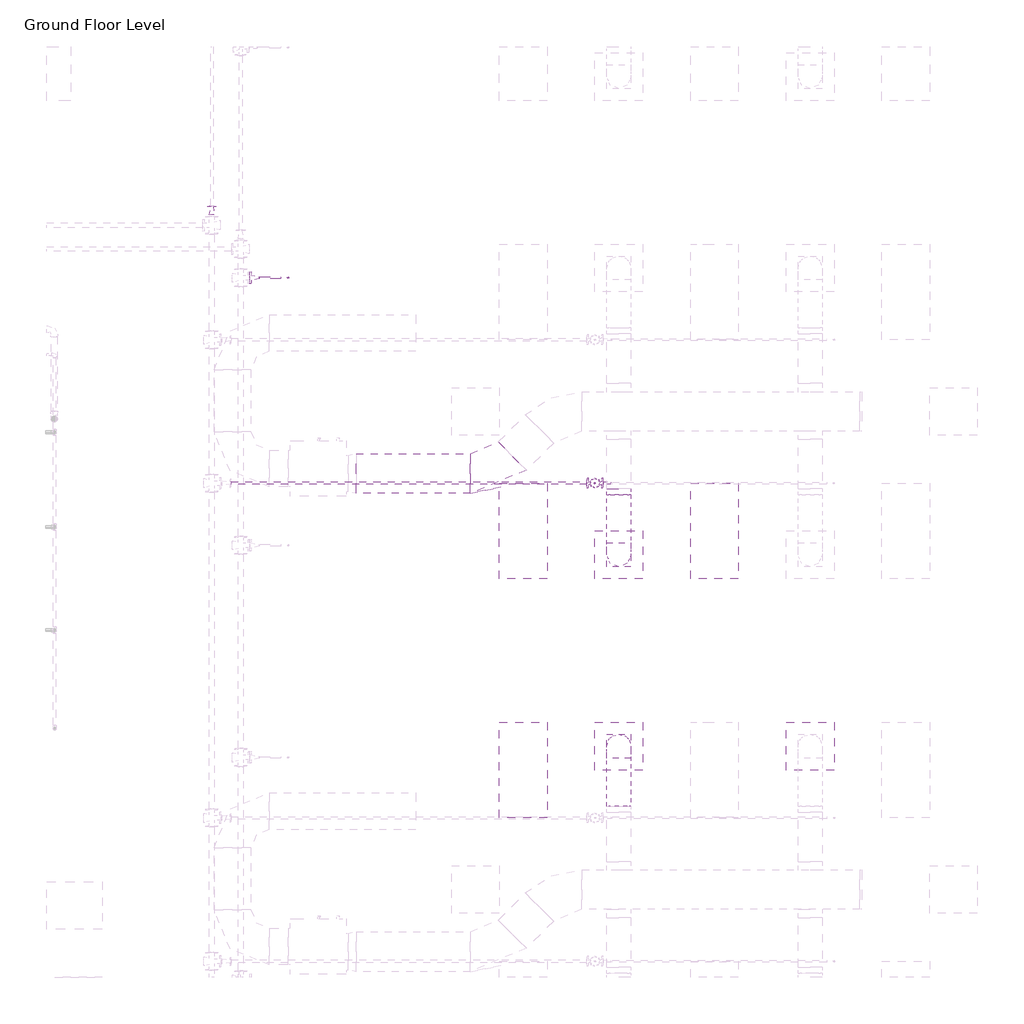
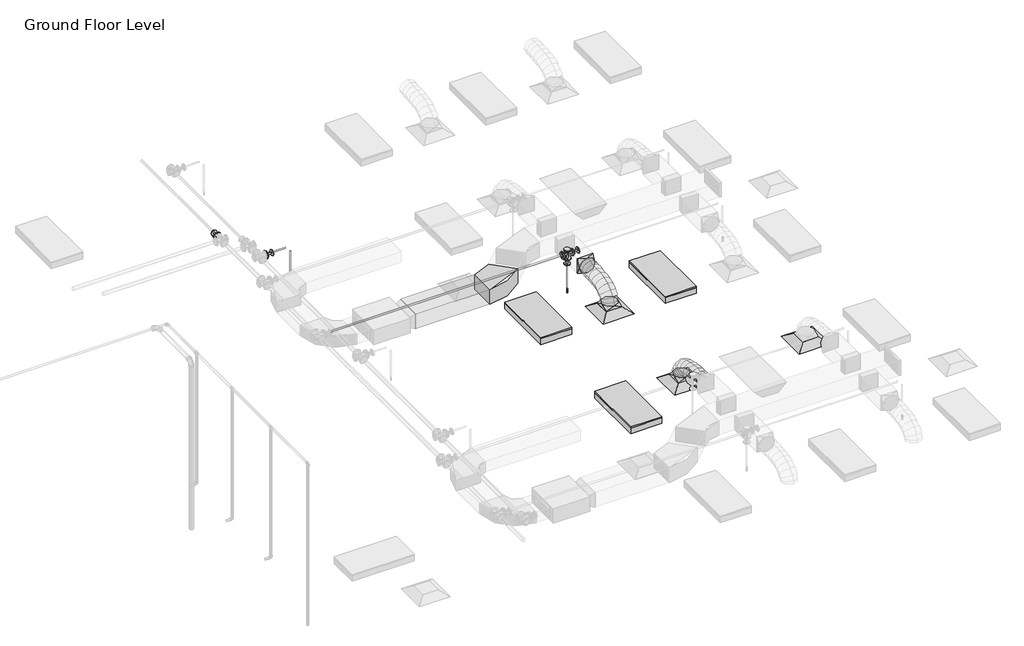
# One storey, part 61 of 66: 5 pipe fittings, 4 duct fittings, 4 pipe segments, 3 air terminals, 3 duct segments, 3 light fixtures, 2 fire suppression terminals.
"""IFC4 building model written with IfcOpenShell, lengths in millimetres."""

from ifc_helpers import new_model, si_unit, point, frame, frame_2d, origin, place, context, project, spatial, polyline, circle_curve, ellipse_curve, trimmed, segment, composite_curve, outline, extrude, transform, mapped, element, save
from ifc_brep_helpers import plane_surface, cylinder_surface, advanced_brep
from components import m_return_diffuser_600_x_600_face_300_x_300_connection_ff221211, m_rectangular_elbow_radius_1_5_w_acc56c25, m_rectangular_to_round_transition_angle_45_degree_641efff0, m_sprinkler_dry_pendent_hosted_15_mm_dry_pendent_9bda8e11, m_sprinkler_pendent_15_mm_pendent_06fcbd8e, m_troffer_light_parabolic_rectangular1_0600x1200mm_4_lamp_86473d4a, m_reducer_flanged_cs_class_150_standard_ccf252ad, m_reducer_flanged_cs_class_150_standard_9dfe9ec5, m_reducer_flanged_cs_class_150_standard_a7631c35, m_tee_round_base_flanged_cs_class_150_standard_7e5987a1

model = new_model("IFC4")

# Units and contexts
model_context = context("Model", 3, world=origin())
ifc_project = project(units=[si_unit("LENGTHUNIT", "METRE", prefix="MILLI")], contexts=[model_context])

# Site, building, storey
site = spatial("IfcSite", under=ifc_project)
building = spatial("IfcBuilding", under=site)
storey = spatial("IfcBuildingStorey", under=building, Name="Ground Floor Level", Elevation=900.0)

# Air terminals
placement = place(None, origin())
m_return_diffuser_600_x_600_face_300_x_300_connection_shape = m_return_diffuser_600_x_600_face_300_x_300_connection_ff221211(model_context)
element("IfcAirTerminal", 1, ObjectType="M_Supply Diffuser : 600 x 600 Face 300 x 300 Connection", at=placement, inside=storey, context=model_context, shape_type="MappedRepresentation", body=[
    mapped(m_return_diffuser_600_x_600_face_300_x_300_connection_shape, transform((10742.7672395, 10935.2153534, 3650.0), x_axis=(1.0, 0.0, 0.0), y_axis=(0.0, 1.0, 0.0), z_axis=(0.0, 0.0, 1.0))),
])
element("IfcAirTerminal", 2, ObjectType="M_Supply Diffuser : 600 x 600 Face 300 x 300 Connection", at=placement, inside=storey, context=model_context, shape_type="MappedRepresentation", body=[
    mapped(m_return_diffuser_600_x_600_face_300_x_300_connection_shape, transform((10742.7672395, 8535.2153534, 3650.0), x_axis=(1.0, 0.0, 0.0), y_axis=(0.0, 1.0, 0.0), z_axis=(0.0, 0.0, 1.0))),
])
element("IfcAirTerminal", 3, ObjectType="M_Supply Diffuser : 600 x 600 Face 300 x 300 Connection", at=placement, inside=storey, context=model_context, shape_type="MappedRepresentation", body=[
    mapped(m_return_diffuser_600_x_600_face_300_x_300_connection_shape, transform((13142.7672395, 8535.2153534, 3650.0), x_axis=(1.0, 0.0, 0.0), y_axis=(0.0, 1.0, 0.0), z_axis=(0.0, 0.0, 1.0))),
])

# Duct fittings
m_rectangular_elbow_radius_1_5_w_shape = m_rectangular_elbow_radius_1_5_w_acc56c25(model_context)
element("IfcDuctFitting", 4, ObjectType="M_Rectangular Elbow - Radius : 1.5 W", at=placement, inside=storey, context=model_context, shape_type="MappedRepresentation", body=[
    mapped(m_rectangular_elbow_radius_1_5_w_shape, transform((9187.6927358, 11956.1779527, 4100.0047224), x_axis=(0.9999999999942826, 0.0, -3.3815582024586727e-06), y_axis=(-9.063610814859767e-12, 0.9999999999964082, -2.680306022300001e-06), z_axis=(3.3815582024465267e-06, 2.6803060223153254e-06, 0.9999999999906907))),
])
m_rectangular_to_round_transition_angle_45_degree_shape = m_rectangular_to_round_transition_angle_45_degree_641efff0(model_context)
element("IfcDuctFitting", 5, ObjectType="M_Rectangular to Round Transition - Angle : 45 Degree", at=placement, inside=storey, context=model_context, shape_type="MappedRepresentation", body=[
    mapped(m_rectangular_to_round_transition_angle_45_degree_shape, transform((10742.7672395, 8535.2153534, 3751.6), x_axis=(0.0, 0.0, 1.0), y_axis=(-1.0, 0.0, 0.0), z_axis=(0.0, -1.0, 0.0))),
])
element("IfcDuctFitting", 6, ObjectType="M_Rectangular to Round Transition - Angle : 45 Degree", at=placement, inside=storey, context=model_context, shape_type="MappedRepresentation", body=[
    mapped(m_rectangular_to_round_transition_angle_45_degree_shape, transform((10742.7672395, 10935.2153534, 3751.6), x_axis=(0.0, 0.0, 1.0), y_axis=(-1.0, 0.0, 0.0), z_axis=(0.0, -1.0, 0.0))),
])
element("IfcDuctFitting", 7, ObjectType="M_Rectangular to Round Transition - Angle : 45 Degree", at=placement, inside=storey, context=model_context, shape_type="MappedRepresentation", body=[
    mapped(m_rectangular_to_round_transition_angle_45_degree_shape, transform((10742.7672395, 11762.5512847, 4100.0), x_axis=(0.0, -1.0, 0.0), y_axis=(1.0, 0.0, 0.0), z_axis=(0.0, 0.0, 1.0))),
])

# Duct segments
element("IfcDuctSegment", 8, ObjectType="Flex - Round", at=placement, inside=storey, context=model_context, shape_type="AdvancedBrep", body=[
    advanced_brep(
    [(10892.7672395, 8535.2153534, 3826.6), (10742.7672395, 8385.2153534, 3826.6), (10592.7672395, 8535.2153534, 3826.6), (10742.7672395, 8685.2153534, 3826.6), (10892.7672395, 8535.2153534, 3857.9377114), (10742.7672395, 8385.2153534, 3832.2944892), (10592.7672395, 8535.2153534, 3857.9377114), (10742.7672395, 8685.2153534, 3883.5809337), (10892.7672395, 8518.1994208, 3906.2505728), (10742.7672395, 8384.4614419, 3834.435049), (10592.7672395, 8518.1994208, 3906.2505728), (10742.7672395, 8651.9373998, 3978.0660967), (10892.7672395, 8471.0155405, 3968.7113131), (10742.7672395, 8366.8096412, 3857.8020236), (10592.7672395, 8471.0155405, 3968.7113131), (10742.7672395, 8575.2214397, 4079.6206026), (10892.7672395, 8399.4595883, 4016.0700639), (10742.7672395, 8330.5255327, 3881.8163788), (10592.7672395, 8399.4595883, 4016.0700639), (10742.7672395, 8468.3936439, 4150.3237489), (10892.7672395, 8309.3274403, 4050.4146682), (10742.7672395, 8265.7666771, 3906.4925606), (10592.7672395, 8309.3274403, 4050.4146682), (10742.7672395, 8352.8882035, 4194.3367758), (10892.7672395, 8206.4149725, 4073.8329691), (10742.7672395, 8179.8540485, 3926.0424542), (10592.7672395, 8206.4149725, 4073.8329691), (10742.7672395, 8232.9758965, 4221.6234841), (10892.7672395, 8096.5180607, 4088.4128097), (10742.7672395, 8081.3671584, 3939.1085462), (10592.7672395, 8096.5180607, 4088.4128097), (10742.7672395, 8111.6689631, 4237.7170733), (10892.7672395, 7985.4325811, 4096.242033), (10742.7672395, 7977.9272529, 3946.398915), (10592.7672395, 7985.4325811, 4096.242033), (10742.7672395, 7992.9379093, 4246.085151), (10892.7672395, 7878.9544096, 4099.4084821), (10742.7672395, 7876.2629165, 3949.4222102), (10592.7672395, 7878.9544096, 4099.4084821), (10742.7672395, 7881.6459027, 4249.394754), (10892.7672395, 7782.8794221, 4100.0), (10742.7672395, 7783.8029299, 4249.9971571), (10592.7672395, 7782.8794221, 4100.0), (10742.7672395, 7781.9559143, 3950.0028429)],
    [
        (0, 1, circle_curve(frame((10742.7672395, 8535.2153534, 3826.6), z_axis=(0.0, 0.0, -1.0), x_axis=(1.0, 0.0, 0.0)), 150.0)),
        (1, 2, circle_curve(frame((10742.7672395, 8535.2153534, 3826.6), z_axis=(0.0, 0.0, -1.0), x_axis=(1.0, 0.0, 0.0)), 150.0)),
        (2, 3, circle_curve(frame((10742.7672395, 8535.2153534, 3826.6), z_axis=(0.0, 0.0, -1.0), x_axis=(1.0, 0.0, 0.0)), 150.0)),
        (3, 0, circle_curve(frame((10742.7672395, 8535.2153534, 3826.6), z_axis=(0.0, 0.0, -1.0), x_axis=(1.0, 0.0, 0.0)), 150.0)),
        (0, 4),
        (4, 5, ellipse_curve(frame((10742.7672395, 8535.2153534, 3857.9377114), z_axis=(0.0, 0.16851014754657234, -0.9856999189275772), x_axis=(0.0, -0.9856999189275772, -0.1685101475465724)), 152.176131, 150.0)),
        (5, 1),
        (5, 6, ellipse_curve(frame((10742.7672395, 8535.2153534, 3857.9377114), z_axis=(0.0, 0.16851014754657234, -0.9856999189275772), x_axis=(0.0, -0.9856999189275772, -0.1685101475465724)), 152.176131, 150.0)),
        (6, 2),
        (6, 7, ellipse_curve(frame((10742.7672395, 8535.2153534, 3857.9377114), z_axis=(0.0, 0.16851014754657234, -0.9856999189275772), x_axis=(0.0, -0.9856999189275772, -0.1685101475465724)), 152.176131, 150.0)),
        (7, 3),
        (7, 4, ellipse_curve(frame((10742.7672395, 8535.2153534, 3857.9377114), z_axis=(0.0, 0.16851014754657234, -0.9856999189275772), x_axis=(0.0, -0.9856999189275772, -0.1685101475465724)), 152.176131, 150.0)),
        (4, 8),
        (8, 9, ellipse_curve(frame((10742.7672395, 8518.1994208, 3906.2505728), z_axis=(0.0, 0.4730922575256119, -0.8810128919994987), x_axis=(0.0, -0.8810128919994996, -0.47309225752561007)), 151.8002519, 150.0)),
        (9, 5),
        (9, 10, ellipse_curve(frame((10742.7672395, 8518.1994208, 3906.2505728), z_axis=(0.0, 0.4730922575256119, -0.8810128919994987), x_axis=(0.0, -0.8810128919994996, -0.47309225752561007)), 151.8002519, 150.0)),
        (10, 6),
        (10, 11, ellipse_curve(frame((10742.7672395, 8518.1994208, 3906.2505728), z_axis=(0.0, 0.4730922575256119, -0.8810128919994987), x_axis=(0.0, -0.8810128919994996, -0.47309225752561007)), 151.8002519, 150.0)),
        (11, 7),
        (11, 8, ellipse_curve(frame((10742.7672395, 8518.1994208, 3906.2505728), z_axis=(0.0, 0.4730922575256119, -0.8810128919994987), x_axis=(0.0, -0.8810128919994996, -0.47309225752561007)), 151.8002519, 150.0)),
        (8, 12),
        (12, 13, ellipse_curve(frame((10742.7672395, 8471.0155405, 3968.7113131), z_axis=(0.0, 0.7287877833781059, -0.6847396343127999), x_axis=(0.0, -0.6847396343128, -0.7287877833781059)), 152.1832446, 150.0)),
        (13, 9),
        (13, 14, ellipse_curve(frame((10742.7672395, 8471.0155405, 3968.7113131), z_axis=(0.0, 0.7287877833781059, -0.6847396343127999), x_axis=(0.0, -0.6847396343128, -0.7287877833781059)), 152.1832446, 150.0)),
        (14, 10),
        (14, 15, ellipse_curve(frame((10742.7672395, 8471.0155405, 3968.7113131), z_axis=(0.0, 0.7287877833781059, -0.6847396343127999), x_axis=(0.0, -0.6847396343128, -0.7287877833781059)), 152.1832446, 150.0)),
        (15, 11),
        (15, 12, ellipse_curve(frame((10742.7672395, 8471.0155405, 3968.7113131), z_axis=(0.0, 0.7287877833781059, -0.6847396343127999), x_axis=(0.0, -0.6847396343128, -0.7287877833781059)), 152.1832446, 150.0)),
        (12, 16),
        (16, 17, ellipse_curve(frame((10742.7672395, 8399.4595883, 4016.0700639), z_axis=(0.0, 0.8895859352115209, -0.4567678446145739), x_axis=(0.0, -0.4567678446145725, -0.8895859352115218)), 150.91705, 150.0)),
        (17, 13),
        (17, 18, ellipse_curve(frame((10742.7672395, 8399.4595883, 4016.0700639), z_axis=(0.0, 0.8895859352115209, -0.4567678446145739), x_axis=(0.0, -0.4567678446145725, -0.8895859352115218)), 150.91705, 150.0)),
        (18, 14),
        (18, 19, ellipse_curve(frame((10742.7672395, 8399.4595883, 4016.0700639), z_axis=(0.0, 0.8895859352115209, -0.4567678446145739), x_axis=(0.0, -0.4567678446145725, -0.8895859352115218)), 150.91705, 150.0)),
        (19, 15),
        (19, 16, ellipse_curve(frame((10742.7672395, 8399.4595883, 4016.0700639), z_axis=(0.0, 0.8895859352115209, -0.4567678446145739), x_axis=(0.0, -0.4567678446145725, -0.8895859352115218)), 150.91705, 150.0)),
        (16, 20),
        (20, 21, ellipse_curve(frame((10742.7672395, 8309.3274403, 4050.4146682), z_axis=(0.0, 0.9571203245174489, -0.2896906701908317), x_axis=(0.0, -0.2896906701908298, -0.9571203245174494)), 150.369921, 150.0)),
        (21, 17),
        (21, 22, ellipse_curve(frame((10742.7672395, 8309.3274403, 4050.4146682), z_axis=(0.0, 0.9571203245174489, -0.2896906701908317), x_axis=(0.0, -0.2896906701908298, -0.9571203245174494)), 150.369921, 150.0)),
        (22, 18),
        (22, 23, ellipse_curve(frame((10742.7672395, 8309.3274403, 4050.4146682), z_axis=(0.0, 0.9571203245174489, -0.2896906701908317), x_axis=(0.0, -0.2896906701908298, -0.9571203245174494)), 150.369921, 150.0)),
        (23, 19),
        (23, 20, ellipse_curve(frame((10742.7672395, 8309.3274403, 4050.4146682), z_axis=(0.0, 0.9571203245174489, -0.2896906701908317), x_axis=(0.0, -0.2896906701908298, -0.9571203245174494)), 150.369921, 150.0)),
        (20, 24),
        (24, 25, ellipse_curve(frame((10742.7672395, 8206.4149725, 4073.8329691), z_axis=(0.0, 0.9842313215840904, -0.1768861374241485), x_axis=(0.0, -0.17688613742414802, -0.9842313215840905)), 150.1583131, 150.0)),
        (25, 21),
        (25, 26, ellipse_curve(frame((10742.7672395, 8206.4149725, 4073.8329691), z_axis=(0.0, 0.9842313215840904, -0.1768861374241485), x_axis=(0.0, -0.17688613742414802, -0.9842313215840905)), 150.1583131, 150.0)),
        (26, 22),
        (26, 27, ellipse_curve(frame((10742.7672395, 8206.4149725, 4073.8329691), z_axis=(0.0, 0.9842313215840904, -0.1768861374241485), x_axis=(0.0, -0.17688613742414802, -0.9842313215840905)), 150.1583131, 150.0)),
        (27, 23),
        (27, 24, ellipse_curve(frame((10742.7672395, 8206.4149725, 4073.8329691), z_axis=(0.0, 0.9842313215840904, -0.1768861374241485), x_axis=(0.0, -0.17688613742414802, -0.9842313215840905)), 150.1583131, 150.0)),
        (24, 28),
        (28, 29, ellipse_curve(frame((10742.7672395, 8096.5180607, 4088.4128097), z_axis=(0.0, 0.9948906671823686, -0.10095821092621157), x_axis=(0.0, -0.100958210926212, -0.9948906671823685)), 150.0710264, 150.0)),
        (29, 25),
        (29, 30, ellipse_curve(frame((10742.7672395, 8096.5180607, 4088.4128097), z_axis=(0.0, 0.9948906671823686, -0.10095821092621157), x_axis=(0.0, -0.100958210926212, -0.9948906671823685)), 150.0710264, 150.0)),
        (30, 26),
        (30, 31, ellipse_curve(frame((10742.7672395, 8096.5180607, 4088.4128097), z_axis=(0.0, 0.9948906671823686, -0.10095821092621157), x_axis=(0.0, -0.100958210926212, -0.9948906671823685)), 150.0710264, 150.0)),
        (31, 27),
        (31, 28, ellipse_curve(frame((10742.7672395, 8096.5180607, 4088.4128097), z_axis=(0.0, 0.9948906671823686, -0.10095821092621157), x_axis=(0.0, -0.100958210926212, -0.9948906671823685)), 150.0710264, 150.0)),
        (28, 32),
        (32, 33, ellipse_curve(frame((10742.7672395, 7985.4325811, 4096.242033), z_axis=(0.0, 0.9987479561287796, -0.05002519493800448), x_axis=(0.0, -0.050025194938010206, -0.9987479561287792)), 150.0309634, 150.0)),
        (33, 29),
        (33, 34, ellipse_curve(frame((10742.7672395, 7985.4325811, 4096.242033), z_axis=(0.0, 0.9987479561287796, -0.05002519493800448), x_axis=(0.0, -0.050025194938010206, -0.9987479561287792)), 150.0309634, 150.0)),
        (34, 30),
        (34, 35, ellipse_curve(frame((10742.7672395, 7985.4325811, 4096.242033), z_axis=(0.0, 0.9987479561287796, -0.05002519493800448), x_axis=(0.0, -0.050025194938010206, -0.9987479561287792)), 150.0309634, 150.0)),
        (35, 31),
        (35, 32, ellipse_curve(frame((10742.7672395, 7985.4325811, 4096.242033), z_axis=(0.0, 0.9987479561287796, -0.05002519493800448), x_axis=(0.0, -0.050025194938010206, -0.9987479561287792)), 150.0309634, 150.0)),
        (32, 36),
        (36, 37, ellipse_curve(frame((10742.7672395, 7878.9544096, 4099.4084821), z_axis=(0.0, 0.9998390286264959, -0.017942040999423), x_axis=(0.0, -0.01794204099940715, -0.9998390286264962)), 150.0104193, 150.0)),
        (37, 33),
        (37, 38, ellipse_curve(frame((10742.7672395, 7878.9544096, 4099.4084821), z_axis=(0.0, 0.9998390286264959, -0.017942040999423), x_axis=(0.0, -0.01794204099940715, -0.9998390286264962)), 150.0104193, 150.0)),
        (38, 34),
        (38, 39, ellipse_curve(frame((10742.7672395, 7878.9544096, 4099.4084821), z_axis=(0.0, 0.9998390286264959, -0.017942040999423), x_axis=(0.0, -0.01794204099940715, -0.9998390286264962)), 150.0104193, 150.0)),
        (39, 35),
        (39, 36, ellipse_curve(frame((10742.7672395, 7878.9544096, 4099.4084821), z_axis=(0.0, 0.9998390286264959, -0.017942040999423), x_axis=(0.0, -0.01794204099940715, -0.9998390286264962)), 150.0104193, 150.0)),
        (40, 41, circle_curve(frame((10742.7672395, 7782.8794221, 4100.0), z_axis=(0.0, -0.9999810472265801, 0.006156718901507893), x_axis=(1.0, 0.0, 0.0)), 150.0)),
        (41, 42, circle_curve(frame((10742.7672395, 7782.8794221, 4100.0), z_axis=(0.0, -0.9999810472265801, 0.006156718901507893), x_axis=(1.0, 0.0, 0.0)), 150.0)),
        (42, 43, circle_curve(frame((10742.7672395, 7782.8794221, 4100.0), z_axis=(0.0, -0.9999810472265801, 0.006156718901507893), x_axis=(1.0, 0.0, 0.0)), 150.0)),
        (43, 40, circle_curve(frame((10742.7672395, 7782.8794221, 4100.0), z_axis=(0.0, -0.9999810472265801, 0.006156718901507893), x_axis=(1.0, 0.0, 0.0)), 150.0)),
        (36, 40),
        (43, 37),
        (42, 38),
        (41, 39),
    ],
    [
        plane_surface(frame((10742.7672395, 8385.2153534, 3826.6), z_axis=(0.0, 0.0, -1.0), x_axis=(1.0, 0.0, 0.0))),
        cylinder_surface(frame((10742.7672395, 8535.2153534, 3826.6), z_axis=(0.0, 0.0, -1.0), x_axis=(1.0, 0.0, 0.0)), 150.0),
        cylinder_surface(frame((10742.7672395, 8535.2153534, 3857.9377114), z_axis=(0.0, 0.3322008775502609, -0.9432086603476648), x_axis=(1.0, 0.0, 0.0)), 150.0),
        cylinder_surface(frame((10742.7672395, 8518.1994208, 3906.2505728), z_axis=(0.0, 0.6027625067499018, -0.7979206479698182), x_axis=(1.0, 0.0, 0.0)), 150.0),
        cylinder_surface(frame((10742.7672395, 8471.0155405, 3968.7113131), z_axis=(0.0, 0.8339024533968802, -0.5519118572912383), x_axis=(1.0, 0.0, 0.0)), 150.0),
        cylinder_surface(frame((10742.7672395, 8399.4595883, 4016.0700639), z_axis=(0.0, 0.934458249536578, -0.35607271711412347), x_axis=(1.0, 0.0, 0.0)), 150.0),
        cylinder_surface(frame((10742.7672395, 8309.3274403, 4050.4146682), z_axis=(0.0, 0.9750732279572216, -0.2218833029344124), x_axis=(1.0, 0.0, 0.0)), 150.0),
        cylinder_surface(frame((10742.7672395, 8206.4149725, 4073.8329691), z_axis=(0.0, 0.9913140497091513, -0.13151598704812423), x_axis=(1.0, 0.0, 0.0)), 150.0),
        cylinder_surface(frame((10742.7672395, 8096.5180607, 4088.4128097), z_axis=(0.0, 0.9975255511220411, -0.07030487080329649), x_axis=(1.0, 0.0, 0.0)), 150.0),
        cylinder_surface(frame((10742.7672395, 7985.4325811, 4096.242033), z_axis=(0.0, 0.9995581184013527, -0.029724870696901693), x_axis=(1.0, 0.0, 0.0)), 150.0),
        plane_surface(frame((10742.7672395, 7781.9559143, 3950.0028429), z_axis=(0.0, -0.9999810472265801, 0.0061567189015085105), x_axis=(1.0, 0.0, 0.0))),
        cylinder_surface(frame((10742.7672395, 7878.9544096, 4099.4084821), z_axis=(0.0, 0.9999810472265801, -0.006156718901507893), x_axis=(1.0, 0.0, 0.0)), 150.0),
    ],
    [
        (0, [[1, 2, 3, 4]]),
        (1, [[-1, 5, 6, 7]]),
        (1, [[-2, -7, 8, 9]]),
        (1, [[-3, -9, 10, 11]]),
        (1, [[-4, -11, 12, -5]]),
        (2, [[-6, 13, 14, 15]]),
        (2, [[-8, -15, 16, 17]]),
        (2, [[-10, -17, 18, 19]]),
        (2, [[-12, -19, 20, -13]]),
        (3, [[-14, 21, 22, 23]]),
        (3, [[-16, -23, 24, 25]]),
        (3, [[-18, -25, 26, 27]]),
        (3, [[-20, -27, 28, -21]]),
        (4, [[-22, 29, 30, 31]]),
        (4, [[-24, -31, 32, 33]]),
        (4, [[-26, -33, 34, 35]]),
        (4, [[-28, -35, 36, -29]]),
        (5, [[-30, 37, 38, 39]]),
        (5, [[-32, -39, 40, 41]]),
        (5, [[-34, -41, 42, 43]]),
        (5, [[-36, -43, 44, -37]]),
        (6, [[-38, 45, 46, 47]]),
        (6, [[-40, -47, 48, 49]]),
        (6, [[-42, -49, 50, 51]]),
        (6, [[-44, -51, 52, -45]]),
        (7, [[-46, 53, 54, 55]]),
        (7, [[-48, -55, 56, 57]]),
        (7, [[-50, -57, 58, 59]]),
        (7, [[-52, -59, 60, -53]]),
        (8, [[-54, 61, 62, 63]]),
        (8, [[-56, -63, 64, 65]]),
        (8, [[-58, -65, 66, 67]]),
        (8, [[-60, -67, 68, -61]]),
        (9, [[-62, 69, 70, 71]]),
        (9, [[-64, -71, 72, 73]]),
        (9, [[-66, -73, 74, 75]]),
        (9, [[-68, -75, 76, -69]]),
        (10, [[77, 78, 79, 80]]),
        (11, [[-70, 81, -80, 82]]),
        (11, [[-72, -82, -79, 83]]),
        (11, [[-74, -83, -78, 84]]),
        (11, [[-76, -84, -77, -81]]),
    ],
),
])
element("IfcDuctSegment", 9, ObjectType="Flex - Round", at=placement, inside=storey, context=model_context, shape_type="AdvancedBrep", body=[
    advanced_brep(
    [(10892.7672395, 10935.2153534, 3826.6), (10742.7672395, 10785.2153534, 3826.6), (10592.7672395, 10935.2153534, 3826.6), (10742.7672395, 11085.2153534, 3826.6), (10892.7672395, 10935.2153534, 3857.9377114), (10742.7672395, 10785.2153534, 3883.5809337), (10592.7672395, 10935.2153534, 3857.9377114), (10742.7672395, 11085.2153534, 3832.2944892), (10892.7672395, 10952.2312859, 3906.2505728), (10742.7672395, 10818.493307, 3978.0660967), (10592.7672395, 10952.2312859, 3906.2505728), (10742.7672395, 11085.9692649, 3834.435049), (10892.7672395, 10999.4151663, 3968.7113131), (10742.7672395, 10895.209267, 4079.6206026), (10592.7672395, 10999.4151663, 3968.7113131), (10742.7672395, 11103.6210655, 3857.8020236), (10892.7672395, 11070.9711184, 4016.0700639), (10742.7672395, 11002.0370628, 4150.3237489), (10592.7672395, 11070.9711184, 4016.0700639), (10742.7672395, 11139.9051741, 3881.8163788), (10892.7672395, 11161.1032664, 4050.4146682), (10742.7672395, 11117.5425033, 4194.3367758), (10592.7672395, 11161.1032664, 4050.4146682), (10742.7672395, 11204.6640296, 3906.4925606), (10892.7672395, 11264.0157343, 4073.8329691), (10742.7672395, 11237.4548103, 4221.6234841), (10592.7672395, 11264.0157343, 4073.8329691), (10742.7672395, 11290.5766583, 3926.0424542), (10892.7672395, 11373.912646, 4088.4128097), (10742.7672395, 11358.7617437, 4237.7170733), (10592.7672395, 11373.912646, 4088.4128097), (10742.7672395, 11389.0635483, 3939.1085462), (10892.7672395, 11484.9981256, 4096.242033), (10742.7672395, 11477.4927975, 4246.085151), (10592.7672395, 11484.9981256, 4096.242033), (10742.7672395, 11492.5034538, 3946.398915), (10892.7672395, 11591.4762972, 4099.4084821), (10742.7672395, 11588.7848041, 4249.394754), (10592.7672395, 11591.4762972, 4099.4084821), (10742.7672395, 11594.1677903, 3949.4222102), (10892.7672395, 11687.5512847, 4100.0), (10742.7672395, 11688.4747925, 3950.0028429), (10592.7672395, 11687.5512847, 4100.0), (10742.7672395, 11686.6277768, 4249.9971571)],
    [
        (0, 1, circle_curve(frame((10742.7672395, 10935.2153534, 3826.6), z_axis=(0.0, 0.0, -1.0), x_axis=(1.0, 0.0, 0.0)), 150.0)),
        (1, 2, circle_curve(frame((10742.7672395, 10935.2153534, 3826.6), z_axis=(0.0, 0.0, -1.0), x_axis=(1.0, 0.0, 0.0)), 150.0)),
        (2, 3, circle_curve(frame((10742.7672395, 10935.2153534, 3826.6), z_axis=(0.0, 0.0, -1.0), x_axis=(1.0, 0.0, 0.0)), 150.0)),
        (3, 0, circle_curve(frame((10742.7672395, 10935.2153534, 3826.6), z_axis=(0.0, 0.0, -1.0), x_axis=(1.0, 0.0, 0.0)), 150.0)),
        (0, 4),
        (4, 5, ellipse_curve(frame((10742.7672395, 10935.2153534, 3857.9377114), z_axis=(0.0, -0.16851014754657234, -0.9856999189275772), x_axis=(0.0, 0.9856999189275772, -0.1685101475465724)), 152.176131, 150.0)),
        (5, 1),
        (5, 6, ellipse_curve(frame((10742.7672395, 10935.2153534, 3857.9377114), z_axis=(0.0, -0.16851014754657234, -0.9856999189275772), x_axis=(0.0, 0.9856999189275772, -0.1685101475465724)), 152.176131, 150.0)),
        (6, 2),
        (6, 7, ellipse_curve(frame((10742.7672395, 10935.2153534, 3857.9377114), z_axis=(0.0, -0.16851014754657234, -0.9856999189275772), x_axis=(0.0, 0.9856999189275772, -0.1685101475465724)), 152.176131, 150.0)),
        (7, 3),
        (7, 4, ellipse_curve(frame((10742.7672395, 10935.2153534, 3857.9377114), z_axis=(0.0, -0.16851014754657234, -0.9856999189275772), x_axis=(0.0, 0.9856999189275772, -0.1685101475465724)), 152.176131, 150.0)),
        (4, 8),
        (8, 9, ellipse_curve(frame((10742.7672395, 10952.2312859, 3906.2505728), z_axis=(0.0, -0.47309225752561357, -0.8810128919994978), x_axis=(0.0, 0.8810128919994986, -0.47309225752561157)), 151.8002519, 150.0)),
        (9, 5),
        (9, 10, ellipse_curve(frame((10742.7672395, 10952.2312859, 3906.2505728), z_axis=(0.0, -0.47309225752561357, -0.8810128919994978), x_axis=(0.0, 0.8810128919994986, -0.47309225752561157)), 151.8002519, 150.0)),
        (10, 6),
        (10, 11, ellipse_curve(frame((10742.7672395, 10952.2312859, 3906.2505728), z_axis=(0.0, -0.47309225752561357, -0.8810128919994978), x_axis=(0.0, 0.8810128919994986, -0.47309225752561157)), 151.8002519, 150.0)),
        (11, 7),
        (11, 8, ellipse_curve(frame((10742.7672395, 10952.2312859, 3906.2505728), z_axis=(0.0, -0.47309225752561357, -0.8810128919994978), x_axis=(0.0, 0.8810128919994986, -0.47309225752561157)), 151.8002519, 150.0)),
        (8, 12),
        (12, 13, ellipse_curve(frame((10742.7672395, 10999.4151663, 3968.7113131), z_axis=(0.0, -0.7287877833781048, -0.6847396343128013), x_axis=(0.0, 0.6847396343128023, -0.7287877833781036)), 152.1832446, 150.0)),
        (13, 9),
        (13, 14, ellipse_curve(frame((10742.7672395, 10999.4151663, 3968.7113131), z_axis=(0.0, -0.7287877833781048, -0.6847396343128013), x_axis=(0.0, 0.6847396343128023, -0.7287877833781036)), 152.1832446, 150.0)),
        (14, 10),
        (14, 15, ellipse_curve(frame((10742.7672395, 10999.4151663, 3968.7113131), z_axis=(0.0, -0.7287877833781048, -0.6847396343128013), x_axis=(0.0, 0.6847396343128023, -0.7287877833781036)), 152.1832446, 150.0)),
        (15, 11),
        (15, 12, ellipse_curve(frame((10742.7672395, 10999.4151663, 3968.7113131), z_axis=(0.0, -0.7287877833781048, -0.6847396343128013), x_axis=(0.0, 0.6847396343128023, -0.7287877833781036)), 152.1832446, 150.0)),
        (12, 16),
        (16, 17, ellipse_curve(frame((10742.7672395, 11070.9711184, 4016.0700639), z_axis=(0.0, -0.8895859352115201, -0.45676784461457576), x_axis=(0.0, 0.45676784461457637, -0.8895859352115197)), 150.91705, 150.0)),
        (17, 13),
        (17, 18, ellipse_curve(frame((10742.7672395, 11070.9711184, 4016.0700639), z_axis=(0.0, -0.8895859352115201, -0.45676784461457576), x_axis=(0.0, 0.45676784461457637, -0.8895859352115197)), 150.91705, 150.0)),
        (18, 14),
        (18, 19, ellipse_curve(frame((10742.7672395, 11070.9711184, 4016.0700639), z_axis=(0.0, -0.8895859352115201, -0.45676784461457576), x_axis=(0.0, 0.45676784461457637, -0.8895859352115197)), 150.91705, 150.0)),
        (19, 15),
        (19, 16, ellipse_curve(frame((10742.7672395, 11070.9711184, 4016.0700639), z_axis=(0.0, -0.8895859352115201, -0.45676784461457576), x_axis=(0.0, 0.45676784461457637, -0.8895859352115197)), 150.91705, 150.0)),
        (16, 20),
        (20, 21, ellipse_curve(frame((10742.7672395, 11161.1032664, 4050.4146682), z_axis=(0.0, -0.9571203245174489, -0.2896906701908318), x_axis=(0.0, 0.28969067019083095, -0.9571203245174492)), 150.369921, 150.0)),
        (21, 17),
        (21, 22, ellipse_curve(frame((10742.7672395, 11161.1032664, 4050.4146682), z_axis=(0.0, -0.9571203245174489, -0.2896906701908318), x_axis=(0.0, 0.28969067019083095, -0.9571203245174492)), 150.369921, 150.0)),
        (22, 18),
        (22, 23, ellipse_curve(frame((10742.7672395, 11161.1032664, 4050.4146682), z_axis=(0.0, -0.9571203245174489, -0.2896906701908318), x_axis=(0.0, 0.28969067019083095, -0.9571203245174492)), 150.369921, 150.0)),
        (23, 19),
        (23, 20, ellipse_curve(frame((10742.7672395, 11161.1032664, 4050.4146682), z_axis=(0.0, -0.9571203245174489, -0.2896906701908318), x_axis=(0.0, 0.28969067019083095, -0.9571203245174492)), 150.369921, 150.0)),
        (20, 24),
        (24, 25, ellipse_curve(frame((10742.7672395, 11264.0157343, 4073.8329691), z_axis=(0.0, -0.9842313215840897, -0.17688613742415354), x_axis=(0.0, 0.1768861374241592, -0.9842313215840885)), 150.1583131, 150.0)),
        (25, 21),
        (25, 26, ellipse_curve(frame((10742.7672395, 11264.0157343, 4073.8329691), z_axis=(0.0, -0.9842313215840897, -0.17688613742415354), x_axis=(0.0, 0.1768861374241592, -0.9842313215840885)), 150.1583131, 150.0)),
        (26, 22),
        (26, 27, ellipse_curve(frame((10742.7672395, 11264.0157343, 4073.8329691), z_axis=(0.0, -0.9842313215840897, -0.17688613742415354), x_axis=(0.0, 0.1768861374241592, -0.9842313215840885)), 150.1583131, 150.0)),
        (27, 23),
        (27, 24, ellipse_curve(frame((10742.7672395, 11264.0157343, 4073.8329691), z_axis=(0.0, -0.9842313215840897, -0.17688613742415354), x_axis=(0.0, 0.1768861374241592, -0.9842313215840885)), 150.1583131, 150.0)),
        (24, 28),
        (28, 29, ellipse_curve(frame((10742.7672395, 11373.912646, 4088.4128097), z_axis=(0.0, -0.9948906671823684, -0.10095821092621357), x_axis=(0.0, 0.10095821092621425, -0.9948906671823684)), 150.0710264, 150.0)),
        (29, 25),
        (29, 30, ellipse_curve(frame((10742.7672395, 11373.912646, 4088.4128097), z_axis=(0.0, -0.9948906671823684, -0.10095821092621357), x_axis=(0.0, 0.10095821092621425, -0.9948906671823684)), 150.0710264, 150.0)),
        (30, 26),
        (30, 31, ellipse_curve(frame((10742.7672395, 11373.912646, 4088.4128097), z_axis=(0.0, -0.9948906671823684, -0.10095821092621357), x_axis=(0.0, 0.10095821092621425, -0.9948906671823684)), 150.0710264, 150.0)),
        (31, 27),
        (31, 28, ellipse_curve(frame((10742.7672395, 11373.912646, 4088.4128097), z_axis=(0.0, -0.9948906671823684, -0.10095821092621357), x_axis=(0.0, 0.10095821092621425, -0.9948906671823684)), 150.0710264, 150.0)),
        (28, 32),
        (32, 33, ellipse_curve(frame((10742.7672395, 11484.9981256, 4096.242033), z_axis=(0.0, -0.9987479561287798, -0.05002519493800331), x_axis=(0.0, 0.050025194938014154, -0.9987479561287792)), 150.0309634, 150.0)),
        (33, 29),
        (33, 34, ellipse_curve(frame((10742.7672395, 11484.9981256, 4096.242033), z_axis=(0.0, -0.9987479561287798, -0.05002519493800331), x_axis=(0.0, 0.050025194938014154, -0.9987479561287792)), 150.0309634, 150.0)),
        (34, 30),
        (34, 35, ellipse_curve(frame((10742.7672395, 11484.9981256, 4096.242033), z_axis=(0.0, -0.9987479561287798, -0.05002519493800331), x_axis=(0.0, 0.050025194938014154, -0.9987479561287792)), 150.0309634, 150.0)),
        (35, 31),
        (35, 32, ellipse_curve(frame((10742.7672395, 11484.9981256, 4096.242033), z_axis=(0.0, -0.9987479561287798, -0.05002519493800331), x_axis=(0.0, 0.050025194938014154, -0.9987479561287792)), 150.0309634, 150.0)),
        (32, 36),
        (36, 37, ellipse_curve(frame((10742.7672395, 11591.4762972, 4099.4084821), z_axis=(0.0, -0.9998390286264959, -0.01794204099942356), x_axis=(-1.8187895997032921e-12, 0.017942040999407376, -0.9998390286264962)), 150.0104193, 150.0)),
        (37, 33),
        (37, 38, ellipse_curve(frame((10742.7672395, 11591.4762972, 4099.4084821), z_axis=(0.0, -0.9998390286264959, -0.01794204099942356), x_axis=(-1.8187895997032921e-12, 0.017942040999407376, -0.9998390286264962)), 150.0104193, 150.0)),
        (38, 34),
        (38, 39, ellipse_curve(frame((10742.7672395, 11591.4762972, 4099.4084821), z_axis=(0.0, -0.9998390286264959, -0.01794204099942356), x_axis=(-1.8187895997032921e-12, 0.017942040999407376, -0.9998390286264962)), 150.0104193, 150.0)),
        (39, 35),
        (39, 36, ellipse_curve(frame((10742.7672395, 11591.4762972, 4099.4084821), z_axis=(0.0, -0.9998390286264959, -0.01794204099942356), x_axis=(-1.8187895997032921e-12, 0.017942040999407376, -0.9998390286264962)), 150.0104193, 150.0)),
        (40, 41, circle_curve(frame((10742.7672395, 11687.5512847, 4100.0), z_axis=(0.0, 0.9999810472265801, 0.006156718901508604), x_axis=(1.0, 0.0, 0.0)), 150.0)),
        (41, 42, circle_curve(frame((10742.7672395, 11687.5512847, 4100.0), z_axis=(0.0, 0.9999810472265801, 0.006156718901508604), x_axis=(1.0, 0.0, 0.0)), 150.0)),
        (42, 43, circle_curve(frame((10742.7672395, 11687.5512847, 4100.0), z_axis=(0.0, 0.9999810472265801, 0.006156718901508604), x_axis=(1.0, 0.0, 0.0)), 150.0)),
        (43, 40, circle_curve(frame((10742.7672395, 11687.5512847, 4100.0), z_axis=(0.0, 0.9999810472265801, 0.006156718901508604), x_axis=(1.0, 0.0, 0.0)), 150.0)),
        (36, 40),
        (43, 37),
        (42, 38),
        (41, 39),
    ],
    [
        plane_surface(frame((10742.7672395, 10785.2153534, 3826.6), z_axis=(0.0, 0.0, -1.0), x_axis=(1.0, 0.0, 0.0))),
        cylinder_surface(frame((10742.7672395, 10935.2153534, 3826.6), z_axis=(0.0, 0.0, -1.0), x_axis=(1.0, 0.0, 0.0)), 150.0),
        cylinder_surface(frame((10742.7672395, 10935.2153534, 3857.9377114), z_axis=(0.0, -0.3322008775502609, -0.9432086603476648), x_axis=(1.0, 0.0, 0.0)), 150.0),
        cylinder_surface(frame((10742.7672395, 10952.2312859, 3906.2505728), z_axis=(0.0, -0.6027625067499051, -0.7979206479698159), x_axis=(1.0, 0.0, 0.0)), 150.0),
        cylinder_surface(frame((10742.7672395, 10999.4151663, 3968.7113131), z_axis=(0.0, -0.833902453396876, -0.5519118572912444), x_axis=(1.0, 0.0, 0.0)), 150.0),
        cylinder_surface(frame((10742.7672395, 11070.9711184, 4016.0700639), z_axis=(0.0, -0.9344582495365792, -0.35607271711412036), x_axis=(1.0, 0.0, 0.0)), 150.0),
        cylinder_surface(frame((10742.7672395, 11161.1032664, 4050.4146682), z_axis=(0.0, -0.9750732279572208, -0.22188330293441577), x_axis=(1.0, 0.0, 0.0)), 150.0),
        cylinder_surface(frame((10742.7672395, 11264.0157343, 4073.8329691), z_axis=(0.0, -0.9913140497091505, -0.131515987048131), x_axis=(1.0, 0.0, 0.0)), 150.0),
        cylinder_surface(frame((10742.7672395, 11373.912646, 4088.4128097), z_axis=(0.0, -0.9975255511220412, -0.07030487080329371), x_axis=(1.0, 0.0, 0.0)), 150.0),
        cylinder_surface(frame((10742.7672395, 11484.9981256, 4096.242033), z_axis=(0.0, -0.9995581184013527, -0.029724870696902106), x_axis=(1.0, 0.0, 0.0)), 150.0),
        plane_surface(frame((10742.7672395, 11686.6277768, 4249.9971571), z_axis=(0.0, 0.9999810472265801, 0.0061567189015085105), x_axis=(1.0, 0.0, 0.0))),
        cylinder_surface(frame((10742.7672395, 11591.4762972, 4099.4084821), z_axis=(0.0, -0.9999810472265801, -0.006156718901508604), x_axis=(1.0, 0.0, 0.0)), 150.0),
    ],
    [
        (0, [[1, 2, 3, 4]]),
        (1, [[-1, 5, 6, 7]]),
        (1, [[-2, -7, 8, 9]]),
        (1, [[-3, -9, 10, 11]]),
        (1, [[-4, -11, 12, -5]]),
        (2, [[-6, 13, 14, 15]]),
        (2, [[-8, -15, 16, 17]]),
        (2, [[-10, -17, 18, 19]]),
        (2, [[-12, -19, 20, -13]]),
        (3, [[-14, 21, 22, 23]]),
        (3, [[-16, -23, 24, 25]]),
        (3, [[-18, -25, 26, 27]]),
        (3, [[-20, -27, 28, -21]]),
        (4, [[-22, 29, 30, 31]]),
        (4, [[-24, -31, 32, 33]]),
        (4, [[-26, -33, 34, 35]]),
        (4, [[-28, -35, 36, -29]]),
        (5, [[-30, 37, 38, 39]]),
        (5, [[-32, -39, 40, 41]]),
        (5, [[-34, -41, 42, 43]]),
        (5, [[-36, -43, 44, -37]]),
        (6, [[-38, 45, 46, 47]]),
        (6, [[-40, -47, 48, 49]]),
        (6, [[-42, -49, 50, 51]]),
        (6, [[-44, -51, 52, -45]]),
        (7, [[-46, 53, 54, 55]]),
        (7, [[-48, -55, 56, 57]]),
        (7, [[-50, -57, 58, 59]]),
        (7, [[-52, -59, 60, -53]]),
        (8, [[-54, 61, 62, 63]]),
        (8, [[-56, -63, 64, 65]]),
        (8, [[-58, -65, 66, 67]]),
        (8, [[-60, -67, 68, -61]]),
        (9, [[-62, 69, 70, 71]]),
        (9, [[-64, -71, 72, 73]]),
        (9, [[-66, -73, 74, 75]]),
        (9, [[-68, -75, 76, -69]]),
        (10, [[77, 78, 79, 80]]),
        (11, [[-70, 81, -80, 82]]),
        (11, [[-72, -82, -79, 83]]),
        (11, [[-74, -83, -78, 84]]),
        (11, [[-76, -84, -77, -81]]),
    ],
),
])
element("IfcDuctSegment", 10, ObjectType="Radius Elbows / Taps", at=placement, inside=storey, context=model_context, shape_type="SweptSolid", body=[
    extrude(outline(polyline([(7447.693178, 11706.1779527), (7447.693178, 12206.1779527), (8877.032564, 12206.1779527), (8877.032564, 11706.1779527), (7447.693178, 11706.1779527)])), frame((0.0, 0.0, 3950.0057729), z_axis=(0.0, 0.0, 1.0), x_axis=(1.0, 0.0, 0.0)), (0.0, 0.0, 1.0), 300.0),
])

# Fire suppression terminals
m_sprinkler_dry_pendent_hosted_15_mm_dry_pendent_shape = m_sprinkler_dry_pendent_hosted_15_mm_dry_pendent_9bda8e11(model_context)
element("IfcFireSuppressionTerminal", 11, ObjectType="M_Sprinkler - Dry - Pendent - Hosted : 15 mm Dry Pendent", at=placement, inside=storey, context=model_context, shape_type="MappedRepresentation", body=[
    mapped(m_sprinkler_dry_pendent_hosted_15_mm_dry_pendent_shape, transform((10442.7672395, 11835.2153534, 3650.0), x_axis=(1.0, 0.0, 0.0), y_axis=(0.0, -1.0, 0.0), z_axis=(0.0, 0.0, -1.0))),
])
m_sprinkler_pendent_15_mm_pendent_shape = m_sprinkler_pendent_15_mm_pendent_06fcbd8e(model_context)
element("IfcFireSuppressionTerminal", 12, ObjectType="M_Sprinkler - Pendent : 15 mm Pendent", at=placement, inside=storey, context=model_context, shape_type="MappedRepresentation", body=[
    mapped(m_sprinkler_pendent_15_mm_pendent_shape, transform((6592.5481019, 14412.7243649, 3650.0), x_axis=(1.0, 0.0, 0.0), y_axis=(0.0, 1.0, 0.0), z_axis=(0.0, 0.0, 1.0))),
])

# Light fixtures
m_troffer_light_parabolic_rectangular1_0600x1200mm_4_lamp_shape = m_troffer_light_parabolic_rectangular1_0600x1200mm_4_lamp_86473d4a(model_context)
element("IfcLightFixture", 13, ObjectType="M_Troffer Light - Parabolic Rectangular1 : 0600x1200mm(4 Lamp) - 277V 2", at=placement, inside=storey, context=model_context, shape_type="MappedRepresentation", body=[
    mapped(m_troffer_light_parabolic_rectangular1_0600x1200mm_4_lamp_shape, transform((9483.3013074, 11253.918855, 3650.0), x_axis=(0.0, 1.0, 0.0), y_axis=(-1.0, 0.0, 0.0), z_axis=(0.0, 0.0, 1.0))),
])
element("IfcLightFixture", 14, ObjectType="M_Troffer Light - Parabolic Rectangular1 : 0600x1200mm(4 Lamp) - 277V 2", at=placement, inside=storey, context=model_context, shape_type="MappedRepresentation", body=[
    mapped(m_troffer_light_parabolic_rectangular1_0600x1200mm_4_lamp_shape, transform((11883.3013074, 11253.918855, 3650.0), x_axis=(0.0, 1.0, 0.0), y_axis=(-1.0, 0.0, 0.0), z_axis=(0.0, 0.0, 1.0))),
])
element("IfcLightFixture", 15, ObjectType="M_Troffer Light - Parabolic Rectangular1 : 0600x1200mm(4 Lamp) - 277V 2", at=placement, inside=storey, context=model_context, shape_type="MappedRepresentation", body=[
    mapped(m_troffer_light_parabolic_rectangular1_0600x1200mm_4_lamp_shape, transform((9483.3013074, 8253.9188549, 3650.0), x_axis=(0.0, 1.0, 0.0), y_axis=(-1.0, 0.0, 0.0), z_axis=(0.0, 0.0, 1.0))),
])

# Pipe fittings
m_reducer_flanged_cs_class_150_standard_shape = m_reducer_flanged_cs_class_150_standard_ccf252ad(model_context)
element("IfcPipeFitting", 16, ObjectType="M_Reducer - Flanged - CS - Class 150 : Standard", at=placement, inside=storey, context=model_context, shape_type="MappedRepresentation", body=[
    mapped(m_reducer_flanged_cs_class_150_standard_shape, transform((10543.4758332, 11835.2153534, 4360.0), x_axis=(1.0, 0.0, 0.0), y_axis=(0.0, 0.0, 1.0), z_axis=(0.0, -1.0, 0.0))),
])
element("IfcPipeFitting", 17, ObjectType="M_Reducer - Flanged - CS - Class 150 : Standard", at=placement, inside=storey, context=model_context, shape_type="MappedRepresentation", body=[
    mapped(m_reducer_flanged_cs_class_150_standard_shape, transform((10442.7672395, 11835.2153534, 4259.2914062), x_axis=(0.0, 0.0, -1.0), y_axis=(-1.0, 0.0, 0.0), z_axis=(0.0, 1.0, 0.0))),
])
m_reducer_flanged_cs_class_150_standard_2_shape = m_reducer_flanged_cs_class_150_standard_9dfe9ec5(model_context)
element("IfcPipeFitting", 18, ObjectType="M_Reducer - Flanged - CS - Class 150 : Standard", at=placement, inside=storey, context=model_context, shape_type="MappedRepresentation", body=[
    mapped(m_reducer_flanged_cs_class_150_standard_2_shape, transform((6111.057812, 14412.7243649, 4291.2754753), x_axis=(1.0, 0.0, 0.0), y_axis=(0.0, 0.0, -1.0), z_axis=(0.0, 1.0, 0.0))),
])
m_reducer_flanged_cs_class_150_standard_3_shape = m_reducer_flanged_cs_class_150_standard_a7631c35(model_context)
element("IfcPipeFitting", 19, ObjectType="M_Reducer - Flanged - CS - Class 150 : Standard", at=placement, inside=storey, context=model_context, shape_type="MappedRepresentation", body=[
    mapped(m_reducer_flanged_cs_class_150_standard_3_shape, transform((5635.869498, 15187.2009828, 4360.0), x_axis=(0.0, 1.0, 0.0), y_axis=(-1.0, 0.0, 0.0), z_axis=(0.0, 0.0, 1.0))),
])
m_tee_round_base_flanged_cs_class_150_standard_shape = m_tee_round_base_flanged_cs_class_150_standard_7e5987a1(model_context)
element("IfcPipeFitting", 20, ObjectType="M_Tee Round Base - Flanged - CS - Class 150 : Standard", at=placement, inside=storey, context=model_context, shape_type="MappedRepresentation", body=[
    mapped(m_tee_round_base_flanged_cs_class_150_standard_shape, transform((10442.7672395, 11835.2153534, 4360.0), x_axis=(1.0, 0.0, 0.0), y_axis=(0.0, 0.0, 1.0), z_axis=(0.0, -1.0, 0.0))),
])

# Pipe segments
element("IfcPipeSegment", 21, ObjectType="Steel flanged", at=placement, inside=storey, context=model_context, shape_type="SweptSolid", body=[
    extrude(outline(composite_curve([segment(trimmed(circle_curve(frame_2d((6592.5481019, 14412.7243649)), 10.668), [point((6581.8801019, 14412.7243649))], [point((6592.5481019, 14423.3923649))], False, "CARTESIAN"), True, "CONTINUOUS"), segment(trimmed(circle_curve(frame_2d((6592.5481019, 14412.7243649)), 10.668), [point((6592.5481019, 14423.3923649))], [point((6603.2161019, 14412.7243649))], False, "CARTESIAN"), True, "CONTINUOUS"), segment(trimmed(circle_curve(frame_2d((6592.5481019, 14412.7243649)), 10.668), [point((6603.2161019, 14412.7243649))], [point((6592.5481019, 14402.0563649))], False, "CARTESIAN"), True, "CONTINUOUS"), segment(trimmed(circle_curve(frame_2d((6592.5481019, 14412.7243649)), 10.668), [point((6592.5481019, 14402.0563649))], [point((6581.8801019, 14412.7243649))], False, "CARTESIAN"), True, "CONTINUOUS")], self_intersect=False)), frame((0.0, 0.0, 3650.0), z_axis=(0.0, 0.0, 1.0), x_axis=(1.0, 0.0, 0.0)), (0.0, 0.0, 1.0), 548.2668816),
])
element("IfcPipeSegment", 22, ObjectType="Steel flanged", at=placement, inside=storey, context=model_context, shape_type="SweptSolid", body=[
    extrude(outline(composite_curve([segment(trimmed(circle_curve(frame_2d((14412.7243649, 4291.2754753)), 10.668), [point((14423.3923649, 4291.2754753))], [point((14412.7243649, 4280.6074753))], False, "CARTESIAN"), True, "CONTINUOUS"), segment(trimmed(circle_curve(frame_2d((14412.7243649, 4291.2754753)), 10.668), [point((14412.7243649, 4280.6074753))], [point((14402.0563649, 4291.2754753))], False, "CARTESIAN"), True, "CONTINUOUS"), segment(trimmed(circle_curve(frame_2d((14412.7243649, 4291.2754753)), 10.668), [point((14402.0563649, 4291.2754753))], [point((14412.7243649, 4301.9434753))], False, "CARTESIAN"), True, "CONTINUOUS"), segment(trimmed(circle_curve(frame_2d((14412.7243649, 4291.2754753)), 10.668), [point((14412.7243649, 4301.9434753))], [point((14423.3923649, 4291.2754753))], False, "CARTESIAN"), True, "CONTINUOUS")], self_intersect=False)), frame((6238.057812, 0.0, 0.0), z_axis=(1.0, 0.0, 0.0), x_axis=(0.0, 1.0, 0.0)), (0.0, 0.0, 1.0), 261.4816962),
])
element("IfcPipeSegment", 23, ObjectType="Steel flanged", at=placement, inside=storey, context=model_context, shape_type="SweptSolid", body=[
    extrude(outline(composite_curve([segment(trimmed(circle_curve(frame_2d((10442.7672395, 11835.2153534)), 10.668), [point((10432.0992395, 11835.2153534))], [point((10442.7672395, 11845.8833534))], False, "CARTESIAN"), True, "CONTINUOUS"), segment(trimmed(circle_curve(frame_2d((10442.7672395, 11835.2153534)), 10.668), [point((10442.7672395, 11845.8833534))], [point((10453.4352395, 11835.2153534))], False, "CARTESIAN"), True, "CONTINUOUS"), segment(trimmed(circle_curve(frame_2d((10442.7672395, 11835.2153534)), 10.668), [point((10453.4352395, 11835.2153534))], [point((10442.7672395, 11824.5473534))], False, "CARTESIAN"), True, "CONTINUOUS"), segment(trimmed(circle_curve(frame_2d((10442.7672395, 11835.2153534)), 10.668), [point((10442.7672395, 11824.5473534))], [point((10432.0992395, 11835.2153534))], False, "CARTESIAN"), True, "CONTINUOUS")], self_intersect=False)), frame((0.0, 0.0, 3650.0), z_axis=(0.0, 0.0, 1.0), x_axis=(1.0, 0.0, 0.0)), (0.0, 0.0, 1.0), 495.2914062),
])
element("IfcPipeSegment", 24, ObjectType="Steel flanged", at=placement, inside=storey, context=model_context, shape_type="SweptSolid", body=[
    extrude(outline(composite_curve([segment(trimmed(circle_curve(frame_2d((11835.2153534, 4360.0)), 16.7005), [point((11851.9158534, 4360.0))], [point((11835.2153534, 4343.2995))], False, "CARTESIAN"), True, "CONTINUOUS"), segment(trimmed(circle_curve(frame_2d((11835.2153534, 4360.0)), 16.7005), [point((11835.2153534, 4343.2995))], [point((11818.5148534, 4360.0))], False, "CARTESIAN"), True, "CONTINUOUS"), segment(trimmed(circle_curve(frame_2d((11835.2153534, 4360.0)), 16.7005), [point((11818.5148534, 4360.0))], [point((11835.2153534, 4376.7005))], False, "CARTESIAN"), True, "CONTINUOUS"), segment(trimmed(circle_curve(frame_2d((11835.2153534, 4360.0)), 16.7005), [point((11835.2153534, 4376.7005))], [point((11851.9158534, 4360.0))], False, "CARTESIAN"), True, "CONTINUOUS")], self_intersect=False)), frame((5876.869498, 0.0, 0.0), z_axis=(1.0, 0.0, 0.0), x_axis=(0.0, 1.0, 0.0)), (0.0, 0.0, 1.0), 4465.1891477),
])

save(model, "model.ifc")
